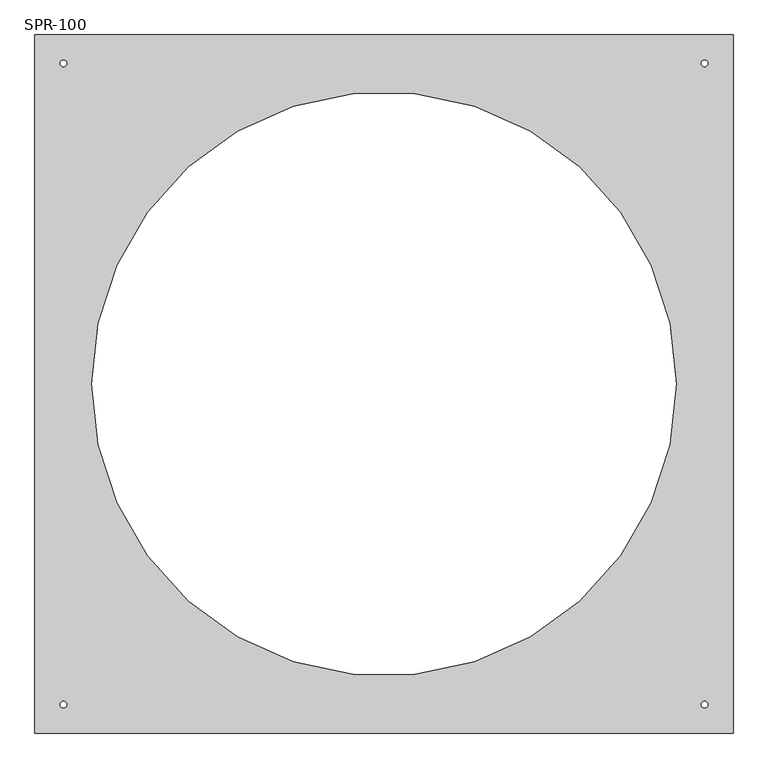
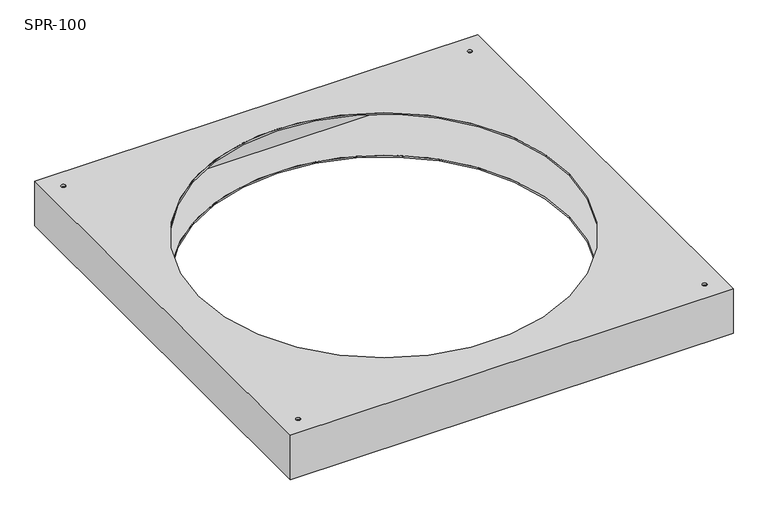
"""IFC4 building model written with IfcOpenShell, lengths in millimetres: damper geometry, СВ_КлапанИнерционный_КрышныйПрямоугольный_30-100_SPR : SPR-100."""

from ifc_helpers import new_model, si_unit, frame, origin, place, context, project, spatial, polyline, circle_curve, source, transform, mapped, element, save
from ifc_brep_helpers import plane_surface, revolved_surface, advanced_brep


def spr_100_0115b411(model_context):
    return source(origin(), model_context, "Body", "AdvancedBrep", [
        advanced_brep(
        [(520.0, 520.0, 0.0), (-520.0, 520.0, 0.0), (-520.0, -520.0, 0.0), (520.0, -520.0, 0.0), (-435.0, 0.0, 0.0), (435.0, 0.0, 0.0), (-472.5, -477.5, 0.0), (-482.5, -477.5, 0.0), (482.5, -477.5, 0.0), (472.5, -477.5, 0.0), (482.5, 477.5, 0.0), (472.5, 477.5, 0.0), (-472.5, 477.5, 0.0), (-482.5, 477.5, 0.0), (520.0, 520.0, -110.0), (520.0, -520.0, -110.0), (-520.0, -520.0, -110.0), (-520.0, 520.0, -110.0), (-435.0, 0.0, -110.0), (435.0, 0.0, -110.0), (-482.5, -477.5, -110.0), (-472.5, -477.5, -110.0), (472.5, -477.5, -110.0), (482.5, -477.5, -110.0), (472.5, 477.5, -110.0), (482.5, 477.5, -110.0), (-482.5, 477.5, -110.0), (-472.5, 477.5, -110.0), (-435.0, 0.0, -4.0), (435.0, 0.0, -4.0), (435.0, 0.0, -106.0), (-435.0, 0.0, -106.0), (515.0, 515.0, -4.0), (515.0, -515.0, -4.0), (-515.0, -515.0, -4.0), (-515.0, 515.0, -4.0), (-482.5, -477.5, -4.0), (-472.5, -477.5, -4.0), (472.5, -477.5, -4.0), (482.5, -477.5, -4.0), (472.5, 477.5, -4.0), (482.5, 477.5, -4.0), (-482.5, 477.5, -4.0), (-472.5, 477.5, -4.0), (515.0, 515.0, -106.0), (-515.0, 515.0, -106.0), (-515.0, -515.0, -106.0), (515.0, -515.0, -106.0), (-472.5, -477.5, -106.0), (-482.5, -477.5, -106.0), (482.5, -477.5, -106.0), (472.5, -477.5, -106.0), (482.5, 477.5, -106.0), (472.5, 477.5, -106.0), (-472.5, 477.5, -106.0), (-482.5, 477.5, -106.0)],
        [
            (0, 1),
            (1, 2),
            (2, 3),
            (3, 0),
            (4, 5, circle_curve(frame((0.0, 0.0, 0.0), z_axis=(0.0, 0.0, -1.0), x_axis=(1.0, 0.0, 0.0)), 435.0)),
            (5, 4, circle_curve(frame((0.0, 0.0, 0.0), z_axis=(0.0, 0.0, -1.0), x_axis=(1.0, 0.0, 0.0)), 435.0)),
            (6, 7, circle_curve(frame((-477.5, -477.5, 0.0), z_axis=(0.0, 0.0, -1.0), x_axis=(1.0, 0.0, 0.0)), 5.0)),
            (7, 6, circle_curve(frame((-477.5, -477.5, 0.0), z_axis=(0.0, 0.0, -1.0), x_axis=(1.0, 0.0, 0.0)), 5.0)),
            (8, 9, circle_curve(frame((477.5, -477.5, 0.0), z_axis=(0.0, 0.0, -1.0), x_axis=(1.0, 0.0, 0.0)), 5.0)),
            (9, 8, circle_curve(frame((477.5, -477.5, 0.0), z_axis=(0.0, 0.0, -1.0), x_axis=(1.0, 0.0, 0.0)), 5.0)),
            (10, 11, circle_curve(frame((477.5, 477.5, 0.0), z_axis=(0.0, 0.0, -1.0), x_axis=(1.0, 0.0, 0.0)), 5.0)),
            (11, 10, circle_curve(frame((477.5, 477.5, 0.0), z_axis=(0.0, 0.0, -1.0), x_axis=(1.0, 0.0, 0.0)), 5.0)),
            (12, 13, circle_curve(frame((-477.5, 477.5, 0.0), z_axis=(0.0, 0.0, -1.0), x_axis=(1.0, 0.0, 0.0)), 5.0)),
            (13, 12, circle_curve(frame((-477.5, 477.5, 0.0), z_axis=(0.0, 0.0, -1.0), x_axis=(1.0, 0.0, 0.0)), 5.0)),
            (14, 15),
            (15, 16),
            (16, 17),
            (17, 14),
            (18, 19, circle_curve(frame((0.0, 0.0, -110.0), z_axis=(0.0, 0.0, 1.0), x_axis=(1.0, 0.0, 0.0)), 435.0)),
            (19, 18, circle_curve(frame((0.0, 0.0, -110.0), z_axis=(0.0, 0.0, 1.0), x_axis=(1.0, 0.0, 0.0)), 435.0)),
            (20, 21, circle_curve(frame((-477.5, -477.5, -110.0), z_axis=(0.0, 0.0, 1.0), x_axis=(1.0, 0.0, 0.0)), 5.0)),
            (21, 20, circle_curve(frame((-477.5, -477.5, -110.0), z_axis=(0.0, 0.0, 1.0), x_axis=(1.0, 0.0, 0.0)), 5.0)),
            (22, 23, circle_curve(frame((477.5, -477.5, -110.0), z_axis=(0.0, 0.0, 1.0), x_axis=(1.0, 0.0, 0.0)), 5.0)),
            (23, 22, circle_curve(frame((477.5, -477.5, -110.0), z_axis=(0.0, 0.0, 1.0), x_axis=(1.0, 0.0, 0.0)), 5.0)),
            (24, 25, circle_curve(frame((477.5, 477.5, -110.0), z_axis=(0.0, 0.0, 1.0), x_axis=(1.0, 0.0, 0.0)), 5.0)),
            (25, 24, circle_curve(frame((477.5, 477.5, -110.0), z_axis=(0.0, 0.0, 1.0), x_axis=(1.0, 0.0, 0.0)), 5.0)),
            (26, 27, circle_curve(frame((-477.5, 477.5, -110.0), z_axis=(0.0, 0.0, 1.0), x_axis=(1.0, 0.0, 0.0)), 5.0)),
            (27, 26, circle_curve(frame((-477.5, 477.5, -110.0), z_axis=(0.0, 0.0, 1.0), x_axis=(1.0, 0.0, 0.0)), 5.0)),
            (0, 14),
            (17, 1),
            (16, 2),
            (15, 3),
            (4, 28),
            (28, 29, circle_curve(frame((0.0, 0.0, -4.0), z_axis=(0.0, 0.0, -1.0), x_axis=(1.0, 0.0, 0.0)), 435.0)),
            (29, 5),
            (19, 30),
            (30, 31, circle_curve(frame((0.0, 0.0, -106.0), z_axis=(0.0, 0.0, 1.0), x_axis=(1.0, 0.0, 0.0)), 435.0)),
            (31, 18),
            (29, 28, circle_curve(frame((0.0, 0.0, -4.0), z_axis=(0.0, 0.0, -1.0), x_axis=(1.0, 0.0, 0.0)), 435.0)),
            (31, 30, circle_curve(frame((0.0, 0.0, -106.0), z_axis=(0.0, 0.0, 1.0), x_axis=(1.0, 0.0, 0.0)), 435.0)),
            (32, 33),
            (33, 34),
            (34, 35),
            (35, 32),
            (36, 37, circle_curve(frame((-477.5, -477.5, -4.0), z_axis=(0.0, 0.0, 1.0), x_axis=(1.0, 0.0, 0.0)), 5.0)),
            (37, 36, circle_curve(frame((-477.5, -477.5, -4.0), z_axis=(0.0, 0.0, 1.0), x_axis=(1.0, 0.0, 0.0)), 5.0)),
            (38, 39, circle_curve(frame((477.5, -477.5, -4.0), z_axis=(0.0, 0.0, 1.0), x_axis=(1.0, 0.0, 0.0)), 5.0)),
            (39, 38, circle_curve(frame((477.5, -477.5, -4.0), z_axis=(0.0, 0.0, 1.0), x_axis=(1.0, 0.0, 0.0)), 5.0)),
            (40, 41, circle_curve(frame((477.5, 477.5, -4.0), z_axis=(0.0, 0.0, 1.0), x_axis=(1.0, 0.0, 0.0)), 5.0)),
            (41, 40, circle_curve(frame((477.5, 477.5, -4.0), z_axis=(0.0, 0.0, 1.0), x_axis=(1.0, 0.0, 0.0)), 5.0)),
            (42, 43, circle_curve(frame((-477.5, 477.5, -4.0), z_axis=(0.0, 0.0, 1.0), x_axis=(1.0, 0.0, 0.0)), 5.0)),
            (43, 42, circle_curve(frame((-477.5, 477.5, -4.0), z_axis=(0.0, 0.0, 1.0), x_axis=(1.0, 0.0, 0.0)), 5.0)),
            (44, 45),
            (45, 46),
            (46, 47),
            (47, 44),
            (48, 49, circle_curve(frame((-477.5, -477.5, -106.0), z_axis=(0.0, 0.0, -1.0), x_axis=(1.0, 0.0, 0.0)), 5.0)),
            (49, 48, circle_curve(frame((-477.5, -477.5, -106.0), z_axis=(0.0, 0.0, -1.0), x_axis=(1.0, 0.0, 0.0)), 5.0)),
            (50, 51, circle_curve(frame((477.5, -477.5, -106.0), z_axis=(0.0, 0.0, -1.0), x_axis=(1.0, 0.0, 0.0)), 5.0)),
            (51, 50, circle_curve(frame((477.5, -477.5, -106.0), z_axis=(0.0, 0.0, -1.0), x_axis=(1.0, 0.0, 0.0)), 5.0)),
            (52, 53, circle_curve(frame((477.5, 477.5, -106.0), z_axis=(0.0, 0.0, -1.0), x_axis=(1.0, 0.0, 0.0)), 5.0)),
            (53, 52, circle_curve(frame((477.5, 477.5, -106.0), z_axis=(0.0, 0.0, -1.0), x_axis=(1.0, 0.0, 0.0)), 5.0)),
            (54, 55, circle_curve(frame((-477.5, 477.5, -106.0), z_axis=(0.0, 0.0, -1.0), x_axis=(1.0, 0.0, 0.0)), 5.0)),
            (55, 54, circle_curve(frame((-477.5, 477.5, -106.0), z_axis=(0.0, 0.0, -1.0), x_axis=(1.0, 0.0, 0.0)), 5.0)),
            (35, 45),
            (44, 32),
            (34, 46),
            (33, 47),
            (36, 7),
            (6, 37),
            (20, 49),
            (48, 21),
            (38, 9),
            (8, 39),
            (22, 51),
            (50, 23),
            (40, 11),
            (10, 41),
            (24, 53),
            (52, 25),
            (42, 13),
            (12, 43),
            (26, 55),
            (54, 27),
        ],
        [
            plane_surface(frame((-520.0, 520.0, 0.0), z_axis=(0.0, 0.0, 1.0), x_axis=(-1.0, 0.0, 0.0))),
            plane_surface(frame((-520.0, 520.0, -110.0), z_axis=(0.0, 0.0, -1.0), x_axis=(1.0, 0.0, 0.0))),
            plane_surface(frame((520.0, 520.0, 0.0), z_axis=(0.0, 1.0, 0.0), x_axis=(0.0, 0.0, -1.0))),
            plane_surface(frame((-520.0, 520.0, 0.0), z_axis=(-1.0, 0.0, 0.0), x_axis=(0.0, 0.0, -1.0))),
            plane_surface(frame((-520.0, -520.0, 0.0), z_axis=(0.0, -1.0, 0.0), x_axis=(0.0, 0.0, -1.0))),
            plane_surface(frame((520.0, -520.0, 0.0), z_axis=(1.0, 0.0, 0.0), x_axis=(0.0, 0.0, -1.0))),
            revolved_surface(polyline([(435.0, 0.0, -4.0), (435.0, 0.0, 0.0)]), (0.0, 0.0, 0.0), (0.0, 0.0, -1.0)),
            revolved_surface(polyline([(435.0, 0.0, -110.0), (435.0, 0.0, -106.0)]), (0.0, 0.0, 0.0), (0.0, 0.0, -1.0)),
            plane_surface(frame((-515.0, 515.0, -4.0), z_axis=(0.0, 0.0, -1.0), x_axis=(-1.0, 0.0, 0.0))),
            plane_surface(frame((-515.0, 515.0, -106.0), z_axis=(0.0, 0.0, 1.0), x_axis=(1.0, 0.0, 0.0))),
            plane_surface(frame((515.0, 515.0, -4.0), z_axis=(0.0, -1.0, 0.0), x_axis=(0.0, 0.0, -1.0))),
            plane_surface(frame((-515.0, 515.0, -4.0), z_axis=(1.0, 0.0, 0.0), x_axis=(0.0, 0.0, -1.0))),
            plane_surface(frame((-515.0, -515.0, -4.0), z_axis=(0.0, 1.0, 0.0), x_axis=(0.0, 0.0, -1.0))),
            plane_surface(frame((515.0, -515.0, -4.0), z_axis=(-1.0, 0.0, 0.0), x_axis=(0.0, 0.0, -1.0))),
            revolved_surface(polyline([(-472.5, -477.5, 0.0), (-472.5, -477.5, -4.0)]), (-477.5, -477.5, -110.0), (0.0, 0.0, 1.0)),
            revolved_surface(polyline([(-472.5, -477.5, -106.0), (-472.5, -477.5, -110.0)]), (-477.5, -477.5, -110.0), (0.0, 0.0, 1.0)),
            revolved_surface(polyline([(482.5, -477.5, 0.0), (482.5, -477.5, -4.0)]), (477.5, -477.5, 0.0), (0.0, 0.0, 1.0)),
            revolved_surface(polyline([(482.5, -477.5, -106.0), (482.5, -477.5, -110.0)]), (477.5, -477.5, 0.0), (0.0, 0.0, 1.0)),
            revolved_surface(polyline([(482.5, 477.5, 0.0), (482.5, 477.5, -4.0)]), (477.5, 477.5, 0.0), (0.0, 0.0, 1.0)),
            revolved_surface(polyline([(482.5, 477.5, -106.0), (482.5, 477.5, -110.0)]), (477.5, 477.5, 0.0), (0.0, 0.0, 1.0)),
            revolved_surface(polyline([(-472.5, 477.5, 0.0), (-472.5, 477.5, -4.0)]), (-477.5, 477.5, 0.0), (0.0, 0.0, 1.0)),
            revolved_surface(polyline([(-472.5, 477.5, -106.0), (-472.5, 477.5, -110.0)]), (-477.5, 477.5, 0.0), (0.0, 0.0, 1.0)),
        ],
        [
            (0, [[1, 2, 3, 4], [5, 6], [7, 8], [9, 10], [11, 12], [13, 14]]),
            (1, [[15, 16, 17, 18], [19, 20], [21, 22], [23, 24], [25, 26], [27, 28]]),
            (2, [[-1, 29, -18, 30]]),
            (3, [[-2, -30, -17, 31]]),
            (4, [[-3, -31, -16, 32]]),
            (5, [[-4, -32, -15, -29]]),
            (6, [[-5, 33, 34, 35]]),
            (7, [[-20, 36, 37, 38]]),
            (6, [[-6, -35, 39, -33]]),
            (7, [[-19, -38, 40, -36]]),
            (8, [[41, 42, 43, 44], [-34, -39], [45, 46], [47, 48], [49, 50], [51, 52]]),
            (9, [[53, 54, 55, 56], [-37, -40], [57, 58], [59, 60], [61, 62], [63, 64]]),
            (10, [[-44, 65, -53, 66]]),
            (11, [[-43, 67, -54, -65]]),
            (12, [[-42, 68, -55, -67]]),
            (13, [[-41, -66, -56, -68]]),
            (14, [[69, -7, 70, -45]]),
            (15, [[71, -57, 72, -21]]),
            (14, [[-69, -46, -70, -8]]),
            (15, [[-71, -22, -72, -58]]),
            (16, [[73, -9, 74, -47]]),
            (17, [[75, -59, 76, -23]]),
            (16, [[-73, -48, -74, -10]]),
            (17, [[-75, -24, -76, -60]]),
            (18, [[77, -11, 78, -49]]),
            (19, [[79, -61, 80, -25]]),
            (18, [[-77, -50, -78, -12]]),
            (19, [[-79, -26, -80, -62]]),
            (20, [[81, -13, 82, -51]]),
            (21, [[83, -63, 84, -27]]),
            (20, [[-81, -52, -82, -14]]),
            (21, [[-83, -28, -84, -64]]),
        ],
    ),
    ])


if __name__ == "__main__":
    model = new_model("IFC4")
    model_context = context("Model", 3, world=origin())
    ifc_project = project(units=[si_unit("LENGTHUNIT", "METRE", prefix="MILLI")], contexts=[model_context])
    site = spatial("IfcSite", under=ifc_project)
    building = spatial("IfcBuilding", under=site)
    placement = place(None, origin())
    spr_100_shape = spr_100_0115b411(model_context)
    element("IfcDamper", 1, ObjectType="СВ_КлапанИнерционный_КрышныйПрямоугольный_30-100_SPR : SPR-100", at=placement, inside=building, context=model_context, shape_type="MappedRepresentation", body=[
        mapped(spr_100_shape, transform((0.0, 0.0, 0.0), x_axis=(1.0, 0.0, 0.0), y_axis=(0.0, 1.0, 0.0), z_axis=(0.0, 0.0, 1.0))),
    ])
    save(model, "model.ifc")
